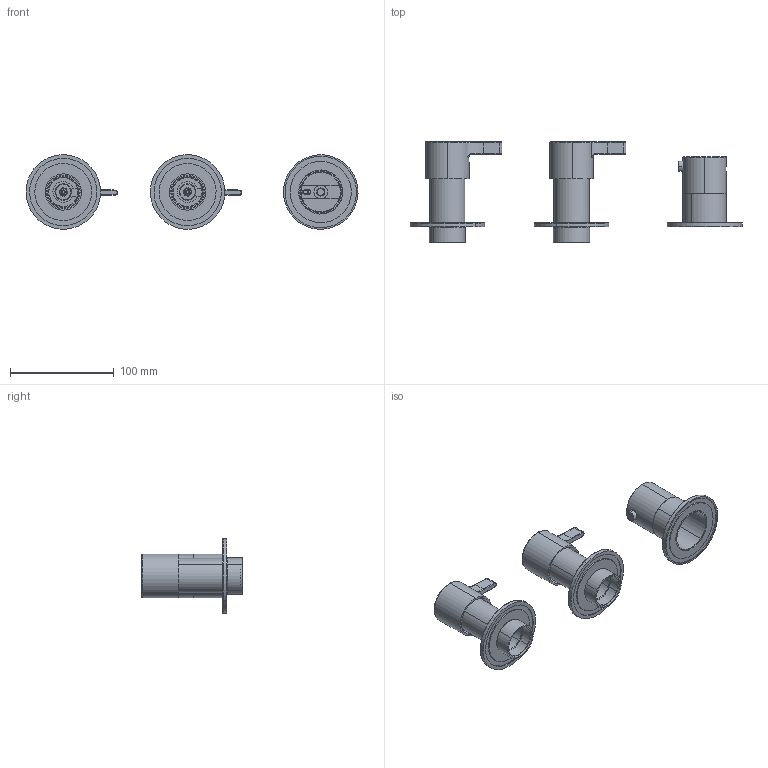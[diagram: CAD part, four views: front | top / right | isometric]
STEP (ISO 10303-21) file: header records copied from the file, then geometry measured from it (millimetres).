
FILE_DESCRIPTION (( 'STEP AP203' ), '1' );
FILE_NAME ('GGE41.STEP', '2023-12-21T16:09:33', ( '' ), ( '' ), 'SwSTEP 2.0', 'SolidWorks 2023', '' );
FILE_SCHEMA (( 'CONFIG_CONTROL_DESIGN' ));
Length unit declared in the file: millimetre
Products named in the file (12): C24.2690.00; C39.00.0056.01; C24.2459.00.0; C47.00.0023.01; C11.14.0009; C24.0976.00.0; C39.00.0003; C11.10.0045; ASSIEME MANIGLIA DEVIATORE ALTA PORTATA; GGE41; C21.2432.00.0; C39.00.0010
Assembly tree (14 placements, depth 3):
  GGE41
    C39.00.0010
    C24.2459.00.0  x2
    ASSIEME MANIGLIA DEVIATORE ALTA PORTATA  x2
      C24.2690.00
      C11.10.0045
      C21.2432.00.0
      C11.14.0009
      C47.00.0023.01
    C39.00.0056.01
    C24.0976.00.0  x2
    C39.00.0003
Bounding box: 320.46 x 97.24 x 71.97 mm (x, y, z)
Volume: 129471.4 mm3; surface area: 108450.6 mm2
Topology: 20 solids, 20 shells, 683 faces, 1640 edges, 1035 vertices
Faces by surface type: plane 287, cylinder 198, torus 102, cone 60, bspline 32, sphere 4
Entity records: 15066 total; most frequent: CARTESIAN_POINT 3695, DIRECTION 2178, ORIENTED_EDGE 2052, EDGE_CURVE 1026, AXIS2_PLACEMENT_3D 855, VERTEX_POINT 652, VECTOR 468, LINE 468
